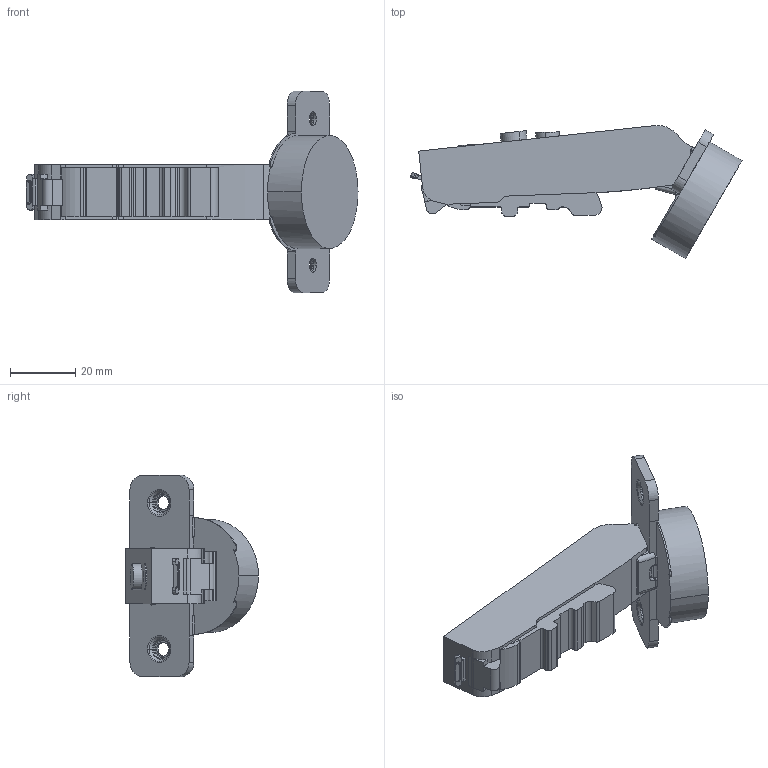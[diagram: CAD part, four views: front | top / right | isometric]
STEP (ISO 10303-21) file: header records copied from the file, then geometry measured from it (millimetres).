
FILE_DESCRIPTION (( 'STEP AP203' ), '1' );
FILE_NAME ('C81W875FAB DTC 3D CLOSE.STEP', '2024-07-26T00:49:20', ( '微软用户' ), ( '微软中国' ), 'SwSTEP 2.0', 'SolidWorks 2021', '' );
FILE_SCHEMA (( 'CONFIG_CONTROL_DESIGN' ));
Length unit declared in the file: millimetre
Products named in the file (1): C81W875FAB DTC 3D CLOSE
Bounding box: 102.1 x 40.92 x 62 mm (x, y, z)
Volume: 42390.3 mm3; surface area: 12097 mm2
Topology: 1 solids, 3 shells, 351 faces, 985 edges, 646 vertices
Faces by surface type: plane 164, cylinder 122, bspline 31, torus 30, cone 4
Entity records: 12497 total; most frequent: CARTESIAN_POINT 3486, ORIENTED_EDGE 1970, DIRECTION 1772, EDGE_CURVE 985, VERTEX_POINT 646, AXIS2_PLACEMENT_3D 600, LINE 572, VECTOR 572
